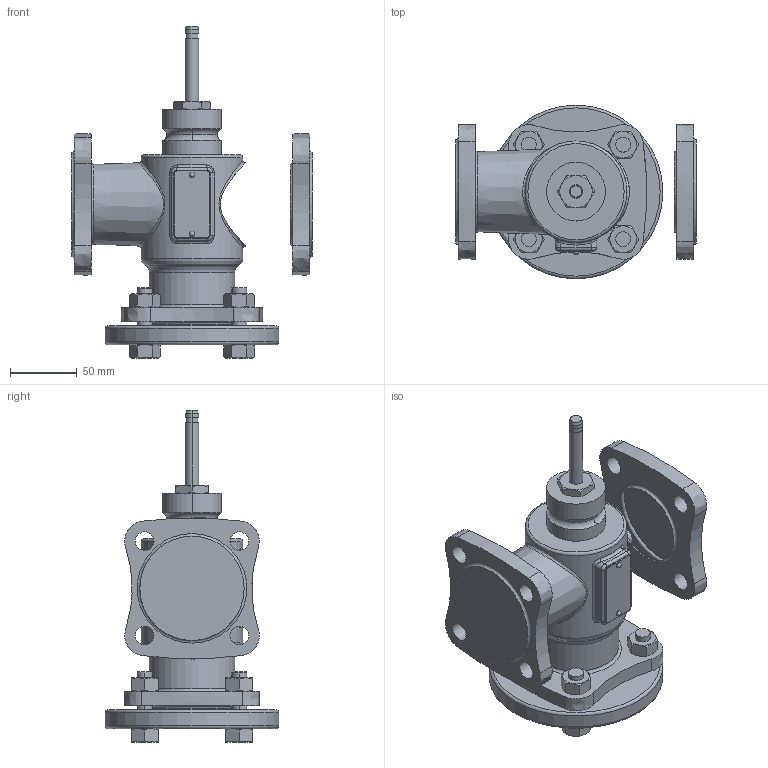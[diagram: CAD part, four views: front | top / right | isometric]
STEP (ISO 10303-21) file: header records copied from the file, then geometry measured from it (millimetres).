
FILE_DESCRIPTION(/* description */ ('Step214'),/* implementation_level */ '2;1');
FILE_NAME(/* name */ 'VVF22 DN40.stp',/* time_stamp */ '2015-11-10T11:23:02+01:00',/* author */ (''),/* organization */ ('Siemens'),/* preprocessor_version */ 'ST-DEVELOPER v15',/* originating_system */ 'SIEMENS PLM Software NX 8.5',/* authorisation */ 'for Duktil only');
FILE_SCHEMA (('AUTOMOTIVE_DESIGN { 1 0 10303 214 3 1 1 1 }'));
Length unit declared in the file: millimetre
Products named in the file (1): Volc19F47525lf2g
Bounding box: 180 x 130 x 248.51 mm (x, y, z)
Volume: 1197327 mm3; surface area: 145421.7 mm2
Topology: 2 solids, 2 shells, 262 faces, 636 edges, 415 vertices
Faces by surface type: plane 104, cylinder 60, cone 45, extrusion 24, torus 20, bspline 7, sphere 2
Full cylindrical faces by diameter (mm): 14 x16, 64 x1, 76 x1, 78 x1, 130 x1
Entity records: 10052 total; most frequent: CARTESIAN_POINT 4518, ORIENTED_EDGE 1160, DIRECTION 1054, EDGE_CURVE 580, AXIS2_PLACEMENT_3D 427, VERTEX_POINT 398, EDGE_LOOP 354, ADVANCED_FACE 261
